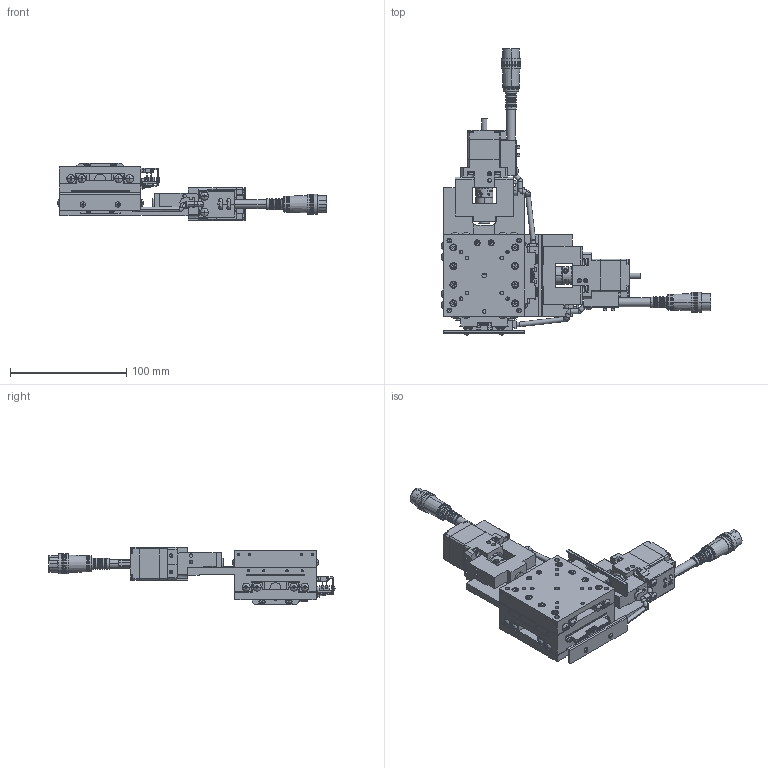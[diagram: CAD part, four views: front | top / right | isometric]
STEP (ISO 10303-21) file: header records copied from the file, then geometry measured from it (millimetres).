
FILE_DESCRIPTION (( 'STEP AP203' ), '1' );
FILE_NAME ('YA07F-R202-RRR.STEP', '2019-02-26T08:43:10', ( '' ), ( '' ), 'SwSTEP 2.0', 'SolidWorks 2018', '' );
FILE_SCHEMA (( 'CONFIG_CONTROL_DESIGN' ));
Length unit declared in the file: millimetre
Products named in the file (10): base-Part-1; base-Part-3; base-Part-2; YA07F-R202-RRR; base; second table-Part-3; second table-Part-2; second table; second table-Part-1; table
Assembly tree (9 placements, depth 3):
  YA07F-R202-RRR
    second table
      second table-Part-1
      second table-Part-2
      second table-Part-3
    base
      base-Part-1
      base-Part-2
      base-Part-3
    table
Bounding box: 231.39 x 245.68 x 49 mm (x, y, z)
Volume: 336979.3 mm3; surface area: 141386 mm2
Topology: 7 solids, 13 shells, 4399 faces, 10959 edges, 6714 vertices
Faces by surface type: plane 2567, cylinder 1082, cone 610, torus 80, sphere 60
Entity records: 131837 total; most frequent: CARTESIAN_POINT 24262, DIRECTION 23149, ORIENTED_EDGE 21526, EDGE_CURVE 10763, AXIS2_PLACEMENT_3D 8265, VERTEX_POINT 6702, LINE 6619, VECTOR 6619
